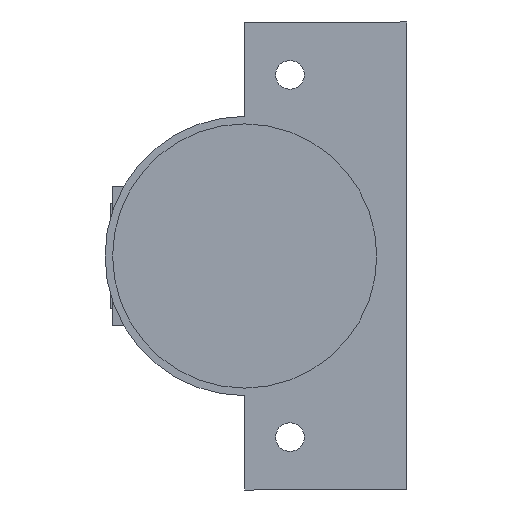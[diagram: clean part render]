
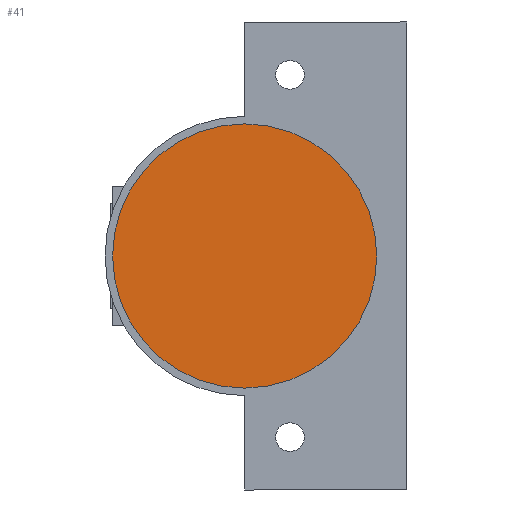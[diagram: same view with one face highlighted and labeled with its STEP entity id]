
A CAD part, front view. The second image highlights one B-rep face of the part: STEP entity #41.
In plain terms, the highlighted planar face has unit normal (0, -1, 0).
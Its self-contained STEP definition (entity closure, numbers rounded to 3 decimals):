
#41 = ADVANCED_FACE ( 'NONE', ( #1238 ), #513, .T. ) ;
#90 = EDGE_CURVE ( 'NONE', #302, #328, #1155, .T. ) ;
#103 = AXIS2_PLACEMENT_3D ( 'NONE', #516, #522, #523 ) ;
#207 = AXIS2_PLACEMENT_3D ( 'NONE', #634, #636, #637 ) ;
#231 = EDGE_CURVE ( 'NONE', #328, #302, #1006, .T. ) ;
#248 = AXIS2_PLACEMENT_3D ( 'NONE', #803, #818, #819 ) ;
#302 = VERTEX_POINT ( 'NONE', #886 ) ;
#328 = VERTEX_POINT ( 'NONE', #912 ) ;
#513 = PLANE ( 'NONE',  #103 ) ;
#516 = CARTESIAN_POINT ( 'NONE',  ( 21.5, -12.6, 0. ) ) ;
#522 = DIRECTION ( 'NONE',  ( 0., -1., 0. ) ) ;
#523 = DIRECTION ( 'NONE',  ( 1., 0., 0. ) ) ;
#634 = CARTESIAN_POINT ( 'NONE',  ( 21.5, -12.6, 0. ) ) ;
#636 = DIRECTION ( 'NONE',  ( 0., -1., 0. ) ) ;
#637 = DIRECTION ( 'NONE',  ( 1., 0., 0. ) ) ;
#803 = CARTESIAN_POINT ( 'NONE',  ( 21.5, -12.6, 0. ) ) ;
#818 = DIRECTION ( 'NONE',  ( 0., -1., 0. ) ) ;
#819 = DIRECTION ( 'NONE',  ( 1., 0., 0. ) ) ;
#886 = CARTESIAN_POINT ( 'NONE',  ( 39., -12.6, 0. ) ) ;
#912 = CARTESIAN_POINT ( 'NONE',  ( 4., -12.6, 0. ) ) ;
#1006 = CIRCLE ( 'NONE', #248, 17.5 ) ;
#1155 = CIRCLE ( 'NONE', #207, 17.5 ) ;
#1238 = FACE_OUTER_BOUND ( 'NONE', #1307, .T. ) ;
#1307 = EDGE_LOOP ( 'NONE', ( #1498, #1428 ) ) ;
#1428 = ORIENTED_EDGE ( 'NONE', *, *, #90, .T. ) ;
#1498 = ORIENTED_EDGE ( 'NONE', *, *, #231, .T. ) ;
